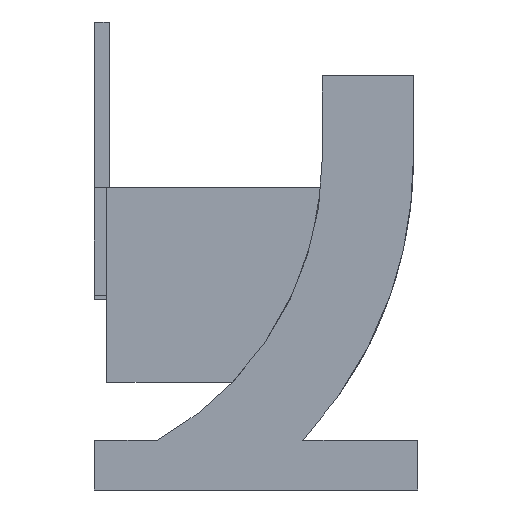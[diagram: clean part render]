
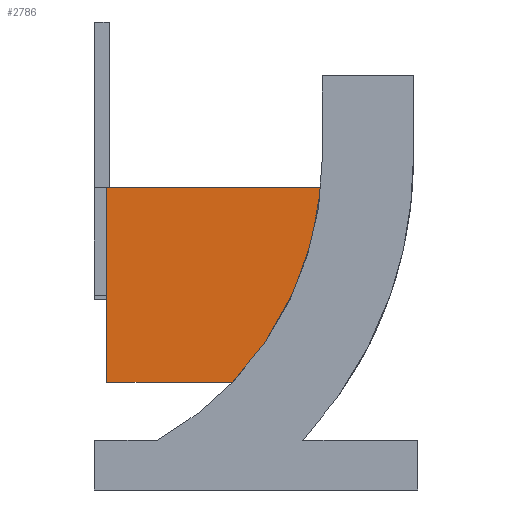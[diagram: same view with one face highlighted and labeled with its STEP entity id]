
A CAD part, front view. The second image highlights one B-rep face of the part: STEP entity #2786.
In plain terms, the highlighted planar face has unit normal (0, -1, 0).
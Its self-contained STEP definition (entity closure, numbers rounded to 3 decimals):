
#98 = PLANE('',#99);
#99 = AXIS2_PLACEMENT_3D('',#100,#101,#102);
#100 = CARTESIAN_POINT('',(31.6,15.9,-19.));
#101 = DIRECTION('',(1.,0.,0.));
#102 = DIRECTION('',(0.,0.,1.));
#762 = VERTEX_POINT('',#763);
#763 = CARTESIAN_POINT('',(31.6,12.5,-14.7));
#777 = PLANE('',#778);
#778 = AXIS2_PLACEMENT_3D('',#779,#780,#781);
#779 = CARTESIAN_POINT('',(31.3,15.9,-14.7));
#780 = DIRECTION('',(0.,0.,1.));
#781 = DIRECTION('',(1.,0.,-0.));
#789 = EDGE_CURVE('',#790,#762,#792,.T.);
#790 = VERTEX_POINT('',#791);
#791 = CARTESIAN_POINT('',(31.6,12.5,-19.4));
#792 = SURFACE_CURVE('',#793,(#797,#804),.PCURVE_S1.);
#793 = LINE('',#794,#795);
#794 = CARTESIAN_POINT('',(31.6,12.5,-19.4));
#795 = VECTOR('',#796,1.);
#796 = DIRECTION('',(0.,0.,1.));
#797 = PCURVE('',#98,#798);
#798 = DEFINITIONAL_REPRESENTATION('',(#799),#803);
#799 = LINE('',#800,#801);
#800 = CARTESIAN_POINT('',(-0.4,3.4));
#801 = VECTOR('',#802,1.);
#802 = DIRECTION('',(1.,0.));
#803 = ( GEOMETRIC_REPRESENTATION_CONTEXT(2) 
PARAMETRIC_REPRESENTATION_CONTEXT() REPRESENTATION_CONTEXT('2D SPACE',''
  ) );
#804 = PCURVE('',#805,#810);
#805 = PLANE('',#806);
#806 = AXIS2_PLACEMENT_3D('',#807,#808,#809);
#807 = CARTESIAN_POINT('',(31.6,12.5,-19.4));
#808 = DIRECTION('',(0.,1.,0.));
#809 = DIRECTION('',(0.,-0.,1.));
#810 = DEFINITIONAL_REPRESENTATION('',(#811),#815);
#811 = LINE('',#812,#813);
#812 = CARTESIAN_POINT('',(0.,0.));
#813 = VECTOR('',#814,1.);
#814 = DIRECTION('',(1.,0.));
#815 = ( GEOMETRIC_REPRESENTATION_CONTEXT(2) 
PARAMETRIC_REPRESENTATION_CONTEXT() REPRESENTATION_CONTEXT('2D SPACE',''
  ) );
#833 = PLANE('',#834);
#834 = AXIS2_PLACEMENT_3D('',#835,#836,#837);
#835 = CARTESIAN_POINT('',(31.6,12.5,-19.4));
#836 = DIRECTION('',(0.,0.,1.));
#837 = DIRECTION('',(1.,0.,-0.));
#2598 = VERTEX_POINT('',#2599);
#2599 = CARTESIAN_POINT('',(36.769,12.5,-14.7));
#2615 = CYLINDRICAL_SURFACE('',#2616,7.8);
#2616 = AXIS2_PLACEMENT_3D('',#2617,#2618,#2619);
#2617 = CARTESIAN_POINT('',(29.,25.,-14.));
#2618 = DIRECTION('',(0.,-1.,0.));
#2619 = DIRECTION('',(0.707,0.,-0.707));
#2735 = EDGE_CURVE('',#762,#2598,#2736,.T.);
#2736 = SURFACE_CURVE('',#2737,(#2741,#2748),.PCURVE_S1.);
#2737 = LINE('',#2738,#2739);
#2738 = CARTESIAN_POINT('',(31.45,12.5,-14.7));
#2739 = VECTOR('',#2740,1.);
#2740 = DIRECTION('',(1.,0.,0.));
#2741 = PCURVE('',#777,#2742);
#2742 = DEFINITIONAL_REPRESENTATION('',(#2743),#2747);
#2743 = LINE('',#2744,#2745);
#2744 = CARTESIAN_POINT('',(0.15,-3.4));
#2745 = VECTOR('',#2746,1.);
#2746 = DIRECTION('',(1.,0.));
#2747 = ( GEOMETRIC_REPRESENTATION_CONTEXT(2) 
PARAMETRIC_REPRESENTATION_CONTEXT() REPRESENTATION_CONTEXT('2D SPACE',''
  ) );
#2748 = PCURVE('',#805,#2749);
#2749 = DEFINITIONAL_REPRESENTATION('',(#2750),#2754);
#2750 = LINE('',#2751,#2752);
#2751 = CARTESIAN_POINT('',(4.7,-0.15));
#2752 = VECTOR('',#2753,1.);
#2753 = DIRECTION('',(0.,1.));
#2754 = ( GEOMETRIC_REPRESENTATION_CONTEXT(2) 
PARAMETRIC_REPRESENTATION_CONTEXT() REPRESENTATION_CONTEXT('2D SPACE',''
  ) );
#2786 = ADVANCED_FACE('',(#2787),#805,.F.);
#2787 = FACE_BOUND('',#2788,.F.);
#2788 = EDGE_LOOP('',(#2789,#2812,#2813,#2814));
#2789 = ORIENTED_EDGE('',*,*,#2790,.F.);
#2790 = EDGE_CURVE('',#790,#2791,#2793,.T.);
#2791 = VERTEX_POINT('',#2792);
#2792 = CARTESIAN_POINT('',(34.628,12.5,-19.4));
#2793 = SURFACE_CURVE('',#2794,(#2798,#2805),.PCURVE_S1.);
#2794 = LINE('',#2795,#2796);
#2795 = CARTESIAN_POINT('',(31.6,12.5,-19.4));
#2796 = VECTOR('',#2797,1.);
#2797 = DIRECTION('',(1.,0.,0.));
#2798 = PCURVE('',#805,#2799);
#2799 = DEFINITIONAL_REPRESENTATION('',(#2800),#2804);
#2800 = LINE('',#2801,#2802);
#2801 = CARTESIAN_POINT('',(0.,0.));
#2802 = VECTOR('',#2803,1.);
#2803 = DIRECTION('',(0.,1.));
#2804 = ( GEOMETRIC_REPRESENTATION_CONTEXT(2) 
PARAMETRIC_REPRESENTATION_CONTEXT() REPRESENTATION_CONTEXT('2D SPACE',''
  ) );
#2805 = PCURVE('',#833,#2806);
#2806 = DEFINITIONAL_REPRESENTATION('',(#2807),#2811);
#2807 = LINE('',#2808,#2809);
#2808 = CARTESIAN_POINT('',(0.,0.));
#2809 = VECTOR('',#2810,1.);
#2810 = DIRECTION('',(1.,0.));
#2811 = ( GEOMETRIC_REPRESENTATION_CONTEXT(2) 
PARAMETRIC_REPRESENTATION_CONTEXT() REPRESENTATION_CONTEXT('2D SPACE',''
  ) );
#2812 = ORIENTED_EDGE('',*,*,#789,.T.);
#2813 = ORIENTED_EDGE('',*,*,#2735,.T.);
#2814 = ORIENTED_EDGE('',*,*,#2815,.F.);
#2815 = EDGE_CURVE('',#2791,#2598,#2816,.T.);
#2816 = SURFACE_CURVE('',#2817,(#2822,#2833),.PCURVE_S1.);
#2817 = CIRCLE('',#2818,7.8);
#2818 = AXIS2_PLACEMENT_3D('',#2819,#2820,#2821);
#2819 = CARTESIAN_POINT('',(29.,12.5,-14.));
#2820 = DIRECTION('',(0.,-1.,0.));
#2821 = DIRECTION('',(0.707,0.,-0.707));
#2822 = PCURVE('',#805,#2823);
#2823 = DEFINITIONAL_REPRESENTATION('',(#2824),#2832);
#2824 = ( BOUNDED_CURVE() B_SPLINE_CURVE(2,(#2825,#2826,#2827,#2828,
#2829,#2830,#2831),.UNSPECIFIED.,.T.,.F.) B_SPLINE_CURVE_WITH_KNOTS((1,2
    ,2,2,2,1),(-2.094,0.,2.094,4.189,
6.283,8.378),.UNSPECIFIED.) CURVE() 
GEOMETRIC_REPRESENTATION_ITEM() RATIONAL_B_SPLINE_CURVE((1.,0.5,1.,0.5,
1.,0.5,1.)) REPRESENTATION_ITEM('') );
#2825 = CARTESIAN_POINT('',(-0.115,2.915));
#2826 = CARTESIAN_POINT('',(9.438,12.468));
#2827 = CARTESIAN_POINT('',(12.934,-0.581));
#2828 = CARTESIAN_POINT('',(16.431,-13.631));
#2829 = CARTESIAN_POINT('',(3.381,-10.134));
#2830 = CARTESIAN_POINT('',(-9.668,-6.638));
#2831 = CARTESIAN_POINT('',(-0.115,2.915));
#2832 = ( GEOMETRIC_REPRESENTATION_CONTEXT(2) 
PARAMETRIC_REPRESENTATION_CONTEXT() REPRESENTATION_CONTEXT('2D SPACE',''
  ) );
#2833 = PCURVE('',#2615,#2834);
#2834 = DEFINITIONAL_REPRESENTATION('',(#2835),#2839);
#2835 = LINE('',#2836,#2837);
#2836 = CARTESIAN_POINT('',(0.,12.5));
#2837 = VECTOR('',#2838,1.);
#2838 = DIRECTION('',(1.,0.));
#2839 = ( GEOMETRIC_REPRESENTATION_CONTEXT(2) 
PARAMETRIC_REPRESENTATION_CONTEXT() REPRESENTATION_CONTEXT('2D SPACE',''
  ) );
